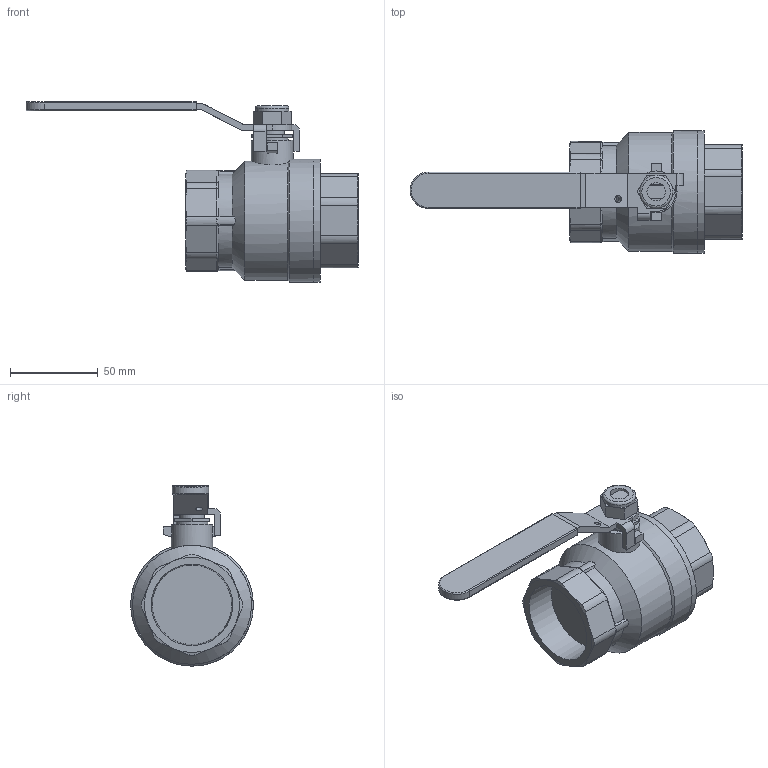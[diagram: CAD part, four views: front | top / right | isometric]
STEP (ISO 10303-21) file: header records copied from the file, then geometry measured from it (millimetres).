
FILE_DESCRIPTION((' '),'2;1');
FILE_NAME('N:\Technical Support\Private\Jomar Valve CAD\Ball Valves\Brass\1.5 JF-100T (100-107)FusionCopy.stp.step','2016-04-27T16:43:15',(' '),(' '),' ','ACIS',' ');
FILE_SCHEMA(('CONFIG_CONTROL_DESIGN'));
Length unit declared in the file: inch
Products named in the file (8): N:\Technical Support\Private\Jomar Valve CAD\Ball Valves\Brass\1.5 JF-100T (100-107)FusionCopy.stp.step; Body1; Body2; Body3; Body4; Body5; Body6; Body7
Assembly tree (7 placements, depth 2):
  N:\Technical Support\Private\Jomar Valve CAD\Ball Valves\Brass\1.5 JF-100T (100-107)FusionCopy.stp.step
    Body1
    Body2
    Body3
    Body4
    Body5
    Body6
    Body7
Bounding box: 188.85 x 69.85 x 102.58 mm (x, y, z)
Volume: 266644.1 mm3; surface area: 55352.2 mm2
Topology: 7 solids, 7 shells, 196 faces, 484 edges, 309 vertices
Faces by surface type: plane 102, cylinder 57, cone 19, torus 11, bspline 7
Full cylindrical faces by diameter (mm): 4.064 x1, 10.414 x1, 13.97 x1, 14.732 x1, 18.161 x1, 18.796 x1, 23.749 x1, 67.691 x1, 69.85 x2
Entity records: 6988 total; most frequent: CARTESIAN_POINT 1413, DIRECTION 935, ORIENTED_EDGE 926, EDGE_CURVE 463, AXIS2_PLACEMENT_3D 349, VERTEX_POINT 302, VECTOR 237, LINE 237
